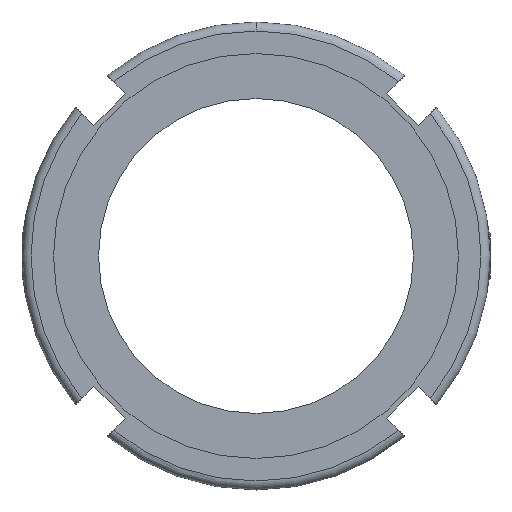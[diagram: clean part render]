
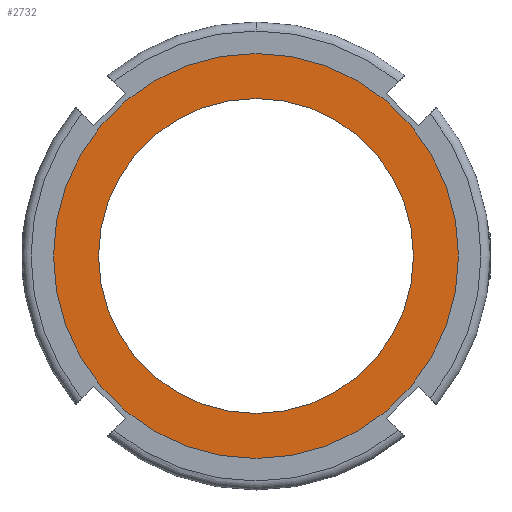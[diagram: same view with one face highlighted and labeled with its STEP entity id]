
A CAD part, left-side view. The second image highlights one B-rep face of the part: STEP entity #2732.
In plain terms, the highlighted planar face has unit normal (-1, 0, 0).
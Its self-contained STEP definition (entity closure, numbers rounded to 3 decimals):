
#23 = AXIS2_PLACEMENT_3D ( 'NONE', #1988, #1102, #633 ) ;
#42 = DIRECTION ( 'NONE',  ( 0., 0., 1. ) ) ;
#305 = VERTEX_POINT ( 'NONE', #581 ) ;
#342 = AXIS2_PLACEMENT_3D ( 'NONE', #382, #1041, #1936 ) ;
#382 = CARTESIAN_POINT ( 'NONE',  ( -12., 0., 0. ) ) ;
#393 = DIRECTION ( 'NONE',  ( 0., 0., 1. ) ) ;
#408 = ORIENTED_EDGE ( 'NONE', *, *, #2465, .T. ) ;
#495 = CIRCLE ( 'NONE', #832, 17.5 ) ;
#498 = DIRECTION ( 'NONE',  ( 1., 0., 0. ) ) ;
#558 = CIRCLE ( 'NONE', #2354, 22.5 ) ;
#581 = CARTESIAN_POINT ( 'NONE',  ( -12., 0., 17.5 ) ) ;
#633 = DIRECTION ( 'NONE',  ( 0., 0., 1. ) ) ;
#813 = PLANE ( 'NONE',  #2726 ) ;
#832 = AXIS2_PLACEMENT_3D ( 'NONE', #1265, #2181, #393 ) ;
#1041 = DIRECTION ( 'NONE',  ( -1., 0., 0. ) ) ;
#1102 = DIRECTION ( 'NONE',  ( -1., 0., 0. ) ) ;
#1260 = EDGE_CURVE ( 'NONE', #2004, #305, #1872, .T. ) ;
#1265 = CARTESIAN_POINT ( 'NONE',  ( -12., 0., 0. ) ) ;
#1334 = ORIENTED_EDGE ( 'NONE', *, *, #1260, .F. ) ;
#1392 = EDGE_LOOP ( 'NONE', ( #2544, #1334 ) ) ;
#1502 = FACE_OUTER_BOUND ( 'NONE', #2711, .T. ) ;
#1557 = ORIENTED_EDGE ( 'NONE', *, *, #1632, .T. ) ;
#1567 = CARTESIAN_POINT ( 'NONE',  ( -12., 0., 22.5 ) ) ;
#1632 = EDGE_CURVE ( 'NONE', #1851, #2149, #2605, .T. ) ;
#1636 = DIRECTION ( 'NONE',  ( 0., 0., -1. ) ) ;
#1737 = CARTESIAN_POINT ( 'NONE',  ( -12., 0., -22.5 ) ) ;
#1787 = DIRECTION ( 'NONE',  ( -1., 0., 0. ) ) ;
#1851 = VERTEX_POINT ( 'NONE', #1567 ) ;
#1872 = CIRCLE ( 'NONE', #23, 17.5 ) ;
#1936 = DIRECTION ( 'NONE',  ( 0., 0., 1. ) ) ;
#1988 = CARTESIAN_POINT ( 'NONE',  ( -12., 0., 0. ) ) ;
#2004 = VERTEX_POINT ( 'NONE', #2593 ) ;
#2073 = EDGE_CURVE ( 'NONE', #305, #2004, #495, .T. ) ;
#2149 = VERTEX_POINT ( 'NONE', #1737 ) ;
#2181 = DIRECTION ( 'NONE',  ( -1., 0., 0. ) ) ;
#2197 = CARTESIAN_POINT ( 'NONE',  ( -12., 0., 0. ) ) ;
#2354 = AXIS2_PLACEMENT_3D ( 'NONE', #2197, #1787, #42 ) ;
#2371 = FACE_BOUND ( 'NONE', #1392, .T. ) ;
#2465 = EDGE_CURVE ( 'NONE', #2149, #1851, #558, .T. ) ;
#2544 = ORIENTED_EDGE ( 'NONE', *, *, #2073, .F. ) ;
#2593 = CARTESIAN_POINT ( 'NONE',  ( -12., 0., -17.5 ) ) ;
#2605 = CIRCLE ( 'NONE', #342, 22.5 ) ;
#2711 = EDGE_LOOP ( 'NONE', ( #1557, #408 ) ) ;
#2726 = AXIS2_PLACEMENT_3D ( 'NONE', #2787, #498, #1636 ) ;
#2732 = ADVANCED_FACE ( 'NONE', ( #2371, #1502 ), #813, .F. ) ;
#2787 = CARTESIAN_POINT ( 'NONE',  ( -12., 22.5, 0. ) ) ;
